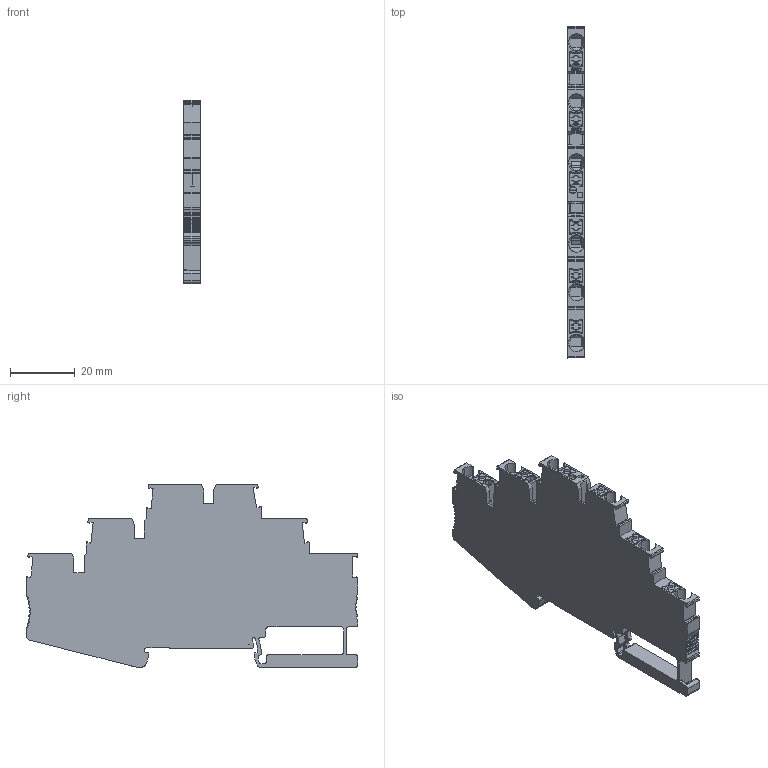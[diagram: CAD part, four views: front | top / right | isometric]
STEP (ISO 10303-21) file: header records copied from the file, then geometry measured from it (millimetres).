
FILE_DESCRIPTION(/* description */ (''),/* implementation_level */ '2;1');
FILE_NAME(/* name */ 'UPT-2.5-3L ASSY.stp',/* time_stamp */ '2024-04-26T14:37:58+08:00',/* author */ (''),/* organization */ (''),/* preprocessor_version */ 'ST-DEVELOPER v16.7',/* originating_system */ 'SIEMENS PLM Software NX 12.0',/* authorisation */ '');
FILE_SCHEMA (('AUTOMOTIVE_DESIGN { 1 0 10303 214 3 1 1 1 }'));
Length unit declared in the file: millimetre
Products named in the file (1): Admi0EB4BAB8ixo5
Bounding box: 5.2 x 102.2 x 56.45 mm (x, y, z)
Volume: 18581.8 mm3; surface area: 13459.2 mm2
Topology: 1 solids, 3 shells, 1323 faces, 3778 edges, 2454 vertices
Faces by surface type: plane 757, cylinder 452, bspline 42, torus 36, cone 36
Entity records: 46922 total; most frequent: CARTESIAN_POINT 12315, ORIENTED_EDGE 7532, DIRECTION 6942, EDGE_CURVE 3766, LINE 2540, VECTOR 2540, VERTEX_POINT 2454, AXIS2_PLACEMENT_3D 2201
